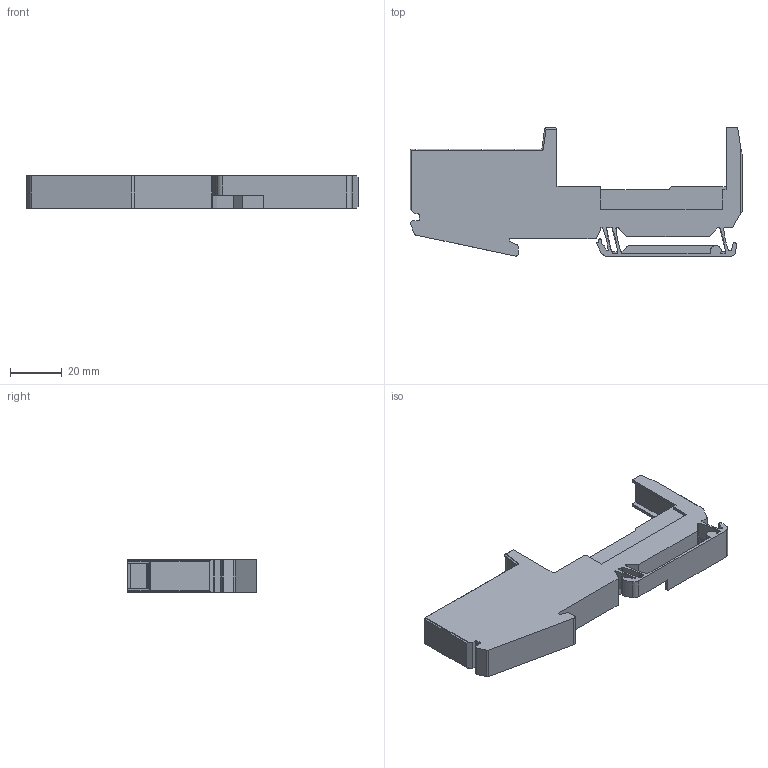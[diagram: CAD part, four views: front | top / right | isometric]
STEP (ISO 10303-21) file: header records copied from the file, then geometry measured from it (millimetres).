
FILE_DESCRIPTION((''),'2;1');
FILE_NAME('2007444','2010-06-22T',('smayer'),(''),'PRO/ENGINEER BY PARAMETRIC TECHNOLOGY CORPORATION, 2009380','PRO/ENGINEER BY PARAMETRIC TECHNOLOGY CORPORATION, 2009380','');
FILE_SCHEMA(('AUTOMOTIVE_DESIGN_CC2 { 1 2 10303 214 -1 1 5 2 }'));
Length unit declared in the file: millimetre
Products named in the file (1): 2007444
Bounding box: 128.85 x 49.85 x 12.6 mm (x, y, z)
Volume: 43439.2 mm3; surface area: 15108 mm2
Topology: 1 solids, 2 shells, 391 faces, 1118 edges, 743 vertices
Faces by surface type: plane 286, cylinder 93, cone 8, bspline 2, torus 2
Entity records: 16268 total; most frequent: CARTESIAN_POINT 2517, ORIENTED_EDGE 2218, DIRECTION 2070, PRESENTATION_STYLE_ASSIGNMENT 1113, STYLED_ITEM 1113, CURVE_STYLE 1112, EDGE_CURVE 1109, VECTOR 876
